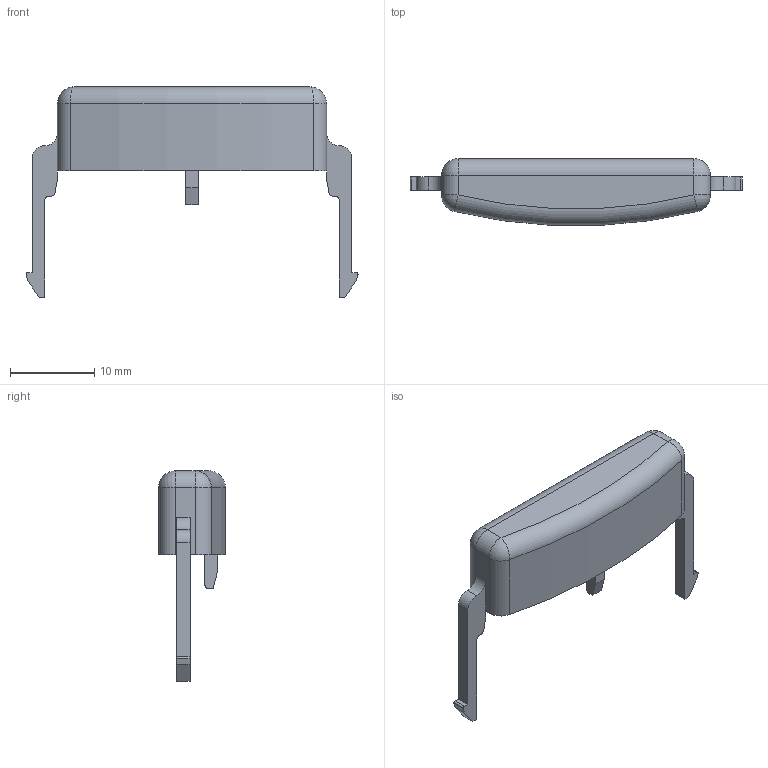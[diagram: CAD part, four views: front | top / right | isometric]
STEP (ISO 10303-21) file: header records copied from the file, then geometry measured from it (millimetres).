
FILE_DESCRIPTION (( 'STEP AP203' ), '1' );
FILE_NAME ('BoitierPlatBouchon.STEP', '2026-06-25T14:48:23', ( '' ), ( '' ), 'SwSTEP 2.0', 'SolidWorks 2025', '' );
FILE_SCHEMA (( 'CONFIG_CONTROL_DESIGN' ));
Length unit declared in the file: millimetre
Products named in the file (1): BoitierPlatBouchon_Fente
Bounding box: 39.47 x 7.93 x 25 mm (x, y, z)
Volume: 922.2 mm3; surface area: 1971.8 mm2
Topology: 1 solids, 1 shells, 80 faces, 210 edges, 130 vertices
Faces by surface type: plane 38, cylinder 30, torus 7, sphere 4, cone 1
Entity records: 2519 total; most frequent: DIRECTION 438, CARTESIAN_POINT 435, ORIENTED_EDGE 416, EDGE_CURVE 208, AXIS2_PLACEMENT_3D 153, LINE 132, VECTOR 132, VERTEX_POINT 130
